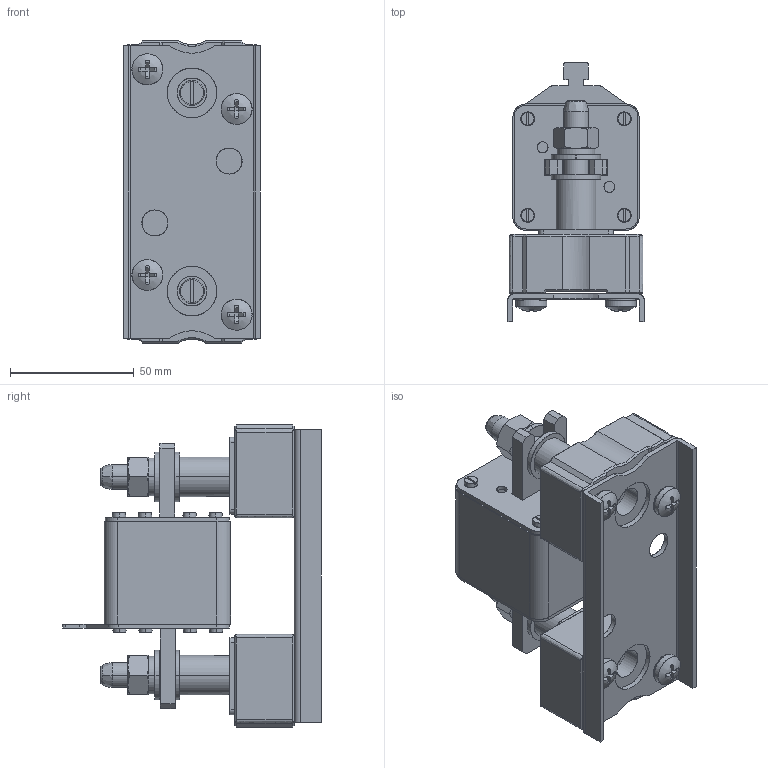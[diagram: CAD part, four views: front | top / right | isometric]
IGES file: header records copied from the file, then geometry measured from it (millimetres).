
Start section: SolidWorks IGES file using analytic representation for surfaces
Global section: file name: U:\14_RD\05_Technical_office\04_Office\Hrdinova\3D modely - IGES\Varius - Ostatní\SP50U06__P50U06.IGS; native system: SolidWorks 2011; preprocessor: SolidWorks 2011; author: adhrja3; date: 170620.142234; units: millimetre
Bounding box: 55 x 104.5 x 122 mm (x, y, z)
Surface area: 89805.5 mm2 (no closed solid volume)
Topology: 0 solids, 0 shells, 1261 faces, 16900 edges, 16876 vertices
Faces by surface type: bspline 741, revolution 520
